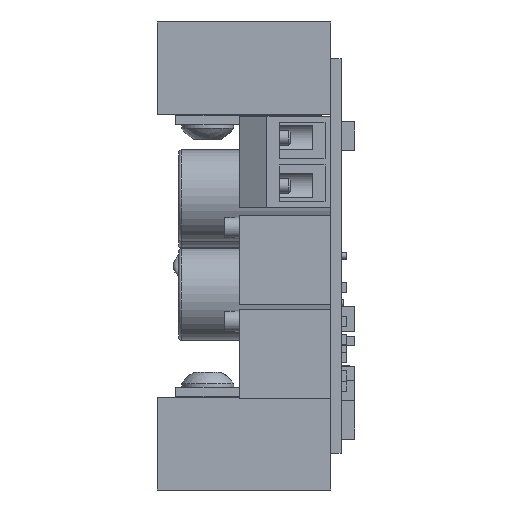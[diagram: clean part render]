
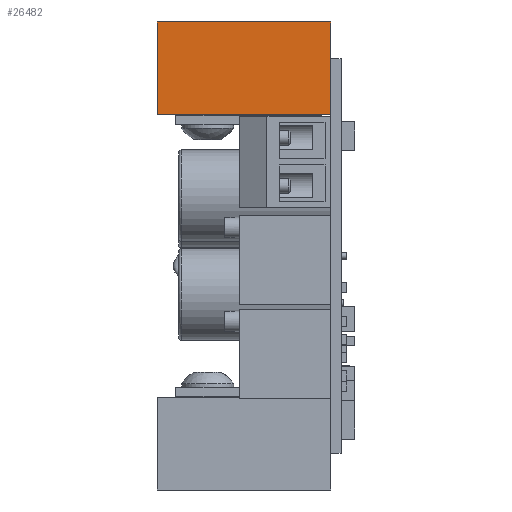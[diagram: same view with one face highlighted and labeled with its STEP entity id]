
A CAD part, left-side view. The second image highlights one B-rep face of the part: STEP entity #26482.
In plain terms, the highlighted planar face has unit normal (-1, 0, 0).
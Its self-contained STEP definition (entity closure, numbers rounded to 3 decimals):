
#66 = VERTEX_POINT ( 'NONE', #7016 ) ;
#102 = CARTESIAN_POINT ( 'NONE',  ( -22.5, 20.1, 15.5 ) ) ;
#495 = LINE ( 'NONE', #11347, #14403 ) ;
#1883 = ORIENTED_EDGE ( 'NONE', *, *, #2514, .T. ) ;
#2276 = DIRECTION ( 'NONE',  ( 0., -1., 0. ) ) ;
#2514 = EDGE_CURVE ( 'NONE', #7091, #19428, #495, .T. ) ;
#2687 = ORIENTED_EDGE ( 'NONE', *, *, #16262, .F. ) ;
#2997 = DIRECTION ( 'NONE',  ( 0., -1., 0. ) ) ;
#3507 = VECTOR ( 'NONE', #2276, 1000. ) ;
#3680 = LINE ( 'NONE', #12562, #9744 ) ;
#3820 = EDGE_CURVE ( 'NONE', #19428, #13673, #26130, .T. ) ;
#6898 = LINE ( 'NONE', #21660, #3507 ) ;
#7016 = CARTESIAN_POINT ( 'NONE',  ( -22.5, 1.1, 25.6 ) ) ;
#7091 = VERTEX_POINT ( 'NONE', #27690 ) ;
#7142 = CARTESIAN_POINT ( 'NONE',  ( -22.5, 1.1, 15.5 ) ) ;
#7544 = ORIENTED_EDGE ( 'NONE', *, *, #8902, .F. ) ;
#8902 = EDGE_CURVE ( 'NONE', #7091, #66, #6898, .T. ) ;
#9204 = DIRECTION ( 'NONE',  ( 0., 0., -1. ) ) ;
#9431 = DIRECTION ( 'NONE',  ( 0., 0., 1. ) ) ;
#9744 = VECTOR ( 'NONE', #12405, 1000. ) ;
#10095 = VECTOR ( 'NONE', #2997, 1000. ) ;
#11347 = CARTESIAN_POINT ( 'NONE',  ( -22.5, 20.1, 15.5 ) ) ;
#11545 = CARTESIAN_POINT ( 'NONE',  ( -22.5, 20.1, 15.5 ) ) ;
#12405 = DIRECTION ( 'NONE',  ( 0., 0., -1. ) ) ;
#12562 = CARTESIAN_POINT ( 'NONE',  ( -22.5, 1.1, 15.5 ) ) ;
#13673 = VERTEX_POINT ( 'NONE', #7142 ) ;
#14403 = VECTOR ( 'NONE', #9204, 1000. ) ;
#14704 = ORIENTED_EDGE ( 'NONE', *, *, #3820, .T. ) ;
#14872 = AXIS2_PLACEMENT_3D ( 'NONE', #11545, #20221, #9431 ) ;
#16262 = EDGE_CURVE ( 'NONE', #66, #13673, #3680, .T. ) ;
#19428 = VERTEX_POINT ( 'NONE', #102 ) ;
#20009 = CARTESIAN_POINT ( 'NONE',  ( -22.5, 20.1, 15.5 ) ) ;
#20221 = DIRECTION ( 'NONE',  ( 1., 0., 0. ) ) ;
#21660 = CARTESIAN_POINT ( 'NONE',  ( -22.5, 20.1, 25.6 ) ) ;
#24516 = PLANE ( 'NONE',  #14872 ) ;
#26052 = EDGE_LOOP ( 'NONE', ( #2687, #7544, #1883, #14704 ) ) ;
#26130 = LINE ( 'NONE', #20009, #10095 ) ;
#26470 = FACE_OUTER_BOUND ( 'NONE', #26052, .T. ) ;
#26482 = ADVANCED_FACE ( 'NONE', ( #26470 ), #24516, .F. ) ;
#27690 = CARTESIAN_POINT ( 'NONE',  ( -22.5, 20.1, 25.6 ) ) ;
